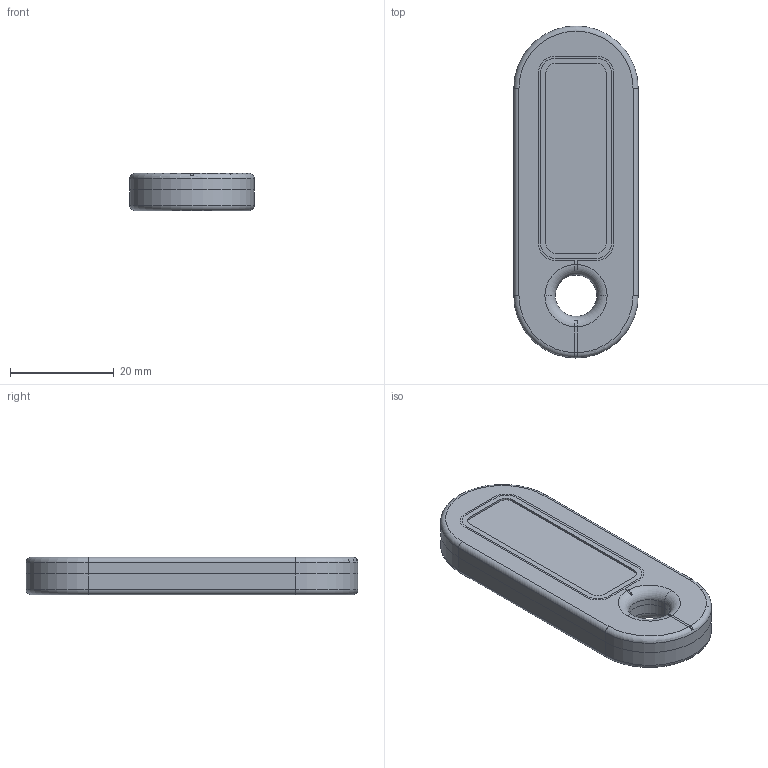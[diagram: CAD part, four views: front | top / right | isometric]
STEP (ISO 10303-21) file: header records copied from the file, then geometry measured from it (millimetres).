
FILE_DESCRIPTION (( 'STEP AP203' ), '1' );
FILE_NAME ('Tag_blank.STEP', '2023-10-12T08:30:41', ( '' ), ( '' ), 'SwSTEP 2.0', 'SolidWorks 2023', '' );
FILE_SCHEMA (( 'CONFIG_CONTROL_DESIGN' ));
Length unit declared in the file: millimetre
Products named in the file (1): Tag_blank
Bounding box: 24 x 64 x 7.2 mm (x, y, z)
Volume: 9268.1 mm3; surface area: 6975 mm2
Topology: 4 solids, 4 shells, 92 faces, 234 edges, 152 vertices
Faces by surface type: plane 47, cylinder 34, torus 11
Entity records: 2925 total; most frequent: CARTESIAN_POINT 551, DIRECTION 500, ORIENTED_EDGE 468, EDGE_CURVE 234, AXIS2_PLACEMENT_3D 185, VERTEX_POINT 152, VECTOR 130, LINE 130
